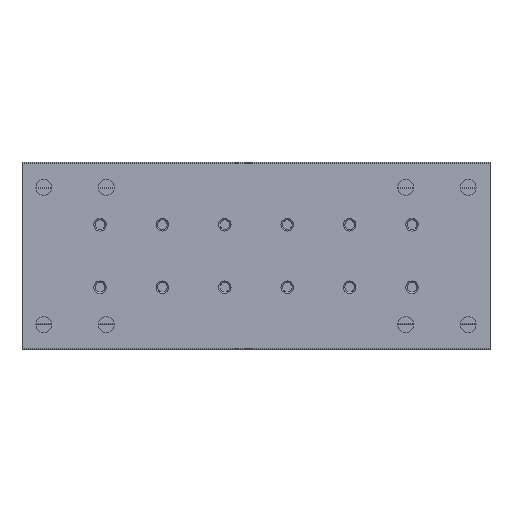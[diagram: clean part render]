
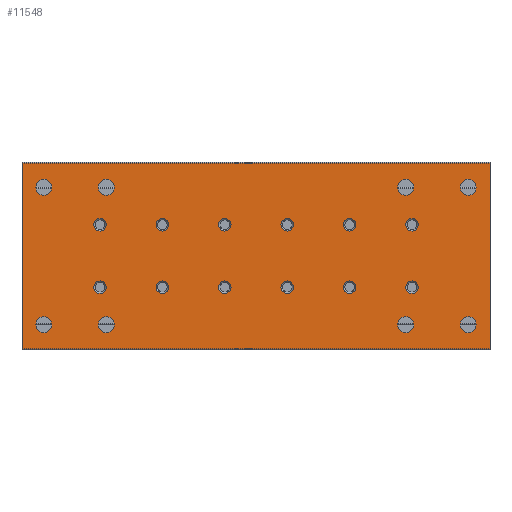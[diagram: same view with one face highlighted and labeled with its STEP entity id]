
A CAD part, front view. The second image highlights one B-rep face of the part: STEP entity #11548.
In plain terms, the highlighted planar face has unit normal (0, -1, 0).
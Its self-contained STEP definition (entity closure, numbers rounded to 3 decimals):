
#410=CIRCLE('',#12256,1.);
#411=CIRCLE('',#12257,1.);
#412=CIRCLE('',#12258,1.);
#413=CIRCLE('',#12259,1.);
#414=CIRCLE('',#12260,1.);
#415=CIRCLE('',#12261,1.);
#416=CIRCLE('',#12262,1.);
#417=CIRCLE('',#12263,1.);
#418=CIRCLE('',#12264,1.);
#419=CIRCLE('',#12265,1.);
#420=CIRCLE('',#12266,1.);
#421=CIRCLE('',#12267,1.);
#422=CIRCLE('',#12268,1.275);
#423=CIRCLE('',#12269,1.275);
#424=CIRCLE('',#12270,1.275);
#425=CIRCLE('',#12271,1.275);
#426=CIRCLE('',#12272,1.275);
#427=CIRCLE('',#12273,1.275);
#428=CIRCLE('',#12274,1.275);
#429=CIRCLE('',#12275,1.275);
#1206=ORIENTED_EDGE('',*,*,#4655,.F.);
#1207=ORIENTED_EDGE('',*,*,#4656,.F.);
#1208=ORIENTED_EDGE('',*,*,#4657,.F.);
#1209=ORIENTED_EDGE('',*,*,#4658,.F.);
#1210=ORIENTED_EDGE('',*,*,#4659,.F.);
#1211=ORIENTED_EDGE('',*,*,#4660,.F.);
#1212=ORIENTED_EDGE('',*,*,#4661,.F.);
#1213=ORIENTED_EDGE('',*,*,#4662,.F.);
#1214=ORIENTED_EDGE('',*,*,#4663,.F.);
#1215=ORIENTED_EDGE('',*,*,#4664,.F.);
#1216=ORIENTED_EDGE('',*,*,#4665,.F.);
#1217=ORIENTED_EDGE('',*,*,#4666,.F.);
#1218=ORIENTED_EDGE('',*,*,#4667,.F.);
#1219=ORIENTED_EDGE('',*,*,#4668,.F.);
#1220=ORIENTED_EDGE('',*,*,#4669,.F.);
#1221=ORIENTED_EDGE('',*,*,#4670,.F.);
#1222=ORIENTED_EDGE('',*,*,#4671,.T.);
#1223=ORIENTED_EDGE('',*,*,#4672,.F.);
#1224=ORIENTED_EDGE('',*,*,#4673,.F.);
#1225=ORIENTED_EDGE('',*,*,#4674,.F.);
#1226=ORIENTED_EDGE('',*,*,#4629,.T.);
#1227=ORIENTED_EDGE('',*,*,#4675,.F.);
#1228=ORIENTED_EDGE('',*,*,#4676,.F.);
#1229=ORIENTED_EDGE('',*,*,#4653,.T.);
#4629=EDGE_CURVE('',#6356,#6355,#7543,.T.);
#4653=EDGE_CURVE('',#6378,#6356,#7567,.T.);
#4655=EDGE_CURVE('',#6379,#6379,#410,.T.);
#4656=EDGE_CURVE('',#6380,#6380,#411,.T.);
#4657=EDGE_CURVE('',#6381,#6381,#412,.T.);
#4658=EDGE_CURVE('',#6382,#6382,#413,.T.);
#4659=EDGE_CURVE('',#6383,#6383,#414,.T.);
#4660=EDGE_CURVE('',#6384,#6384,#415,.T.);
#4661=EDGE_CURVE('',#6385,#6385,#416,.T.);
#4662=EDGE_CURVE('',#6386,#6386,#417,.T.);
#4663=EDGE_CURVE('',#6387,#6387,#418,.T.);
#4664=EDGE_CURVE('',#6388,#6388,#419,.T.);
#4665=EDGE_CURVE('',#6389,#6389,#420,.T.);
#4666=EDGE_CURVE('',#6390,#6390,#421,.T.);
#4667=EDGE_CURVE('',#6391,#6391,#422,.T.);
#4668=EDGE_CURVE('',#6392,#6392,#423,.T.);
#4669=EDGE_CURVE('',#6393,#6393,#424,.T.);
#4670=EDGE_CURVE('',#6394,#6394,#425,.T.);
#4671=EDGE_CURVE('',#6395,#6395,#426,.T.);
#4672=EDGE_CURVE('',#6396,#6396,#427,.T.);
#4673=EDGE_CURVE('',#6397,#6397,#428,.T.);
#4674=EDGE_CURVE('',#6398,#6398,#429,.T.);
#4675=EDGE_CURVE('',#6399,#6355,#7569,.T.);
#4676=EDGE_CURVE('',#6378,#6399,#7570,.T.);
#6355=VERTEX_POINT('',#17564);
#6356=VERTEX_POINT('',#17566);
#6378=VERTEX_POINT('',#17615);
#6379=VERTEX_POINT('',#17619);
#6380=VERTEX_POINT('',#17621);
#6381=VERTEX_POINT('',#17623);
#6382=VERTEX_POINT('',#17625);
#6383=VERTEX_POINT('',#17627);
#6384=VERTEX_POINT('',#17629);
#6385=VERTEX_POINT('',#17631);
#6386=VERTEX_POINT('',#17633);
#6387=VERTEX_POINT('',#17635);
#6388=VERTEX_POINT('',#17637);
#6389=VERTEX_POINT('',#17639);
#6390=VERTEX_POINT('',#17641);
#6391=VERTEX_POINT('',#17643);
#6392=VERTEX_POINT('',#17645);
#6393=VERTEX_POINT('',#17647);
#6394=VERTEX_POINT('',#17649);
#6395=VERTEX_POINT('',#17651);
#6396=VERTEX_POINT('',#17653);
#6397=VERTEX_POINT('',#17655);
#6398=VERTEX_POINT('',#17657);
#6399=VERTEX_POINT('',#17659);
#7543=LINE('',#17565,#8557);
#7567=LINE('',#17614,#8581);
#7569=LINE('',#17658,#8583);
#7570=LINE('',#17660,#8584);
#8557=VECTOR('',#13712,1000.);
#8581=VECTOR('',#13742,1000.);
#8583=VECTOR('',#13786,1000.);
#8584=VECTOR('',#13787,1000.);
#9527=EDGE_LOOP('',(#1206));
#9528=EDGE_LOOP('',(#1207));
#9529=EDGE_LOOP('',(#1208));
#9530=EDGE_LOOP('',(#1209));
#9531=EDGE_LOOP('',(#1210));
#9532=EDGE_LOOP('',(#1211));
#9533=EDGE_LOOP('',(#1212));
#9534=EDGE_LOOP('',(#1213));
#9535=EDGE_LOOP('',(#1214));
#9536=EDGE_LOOP('',(#1215));
#9537=EDGE_LOOP('',(#1216));
#9538=EDGE_LOOP('',(#1217));
#9539=EDGE_LOOP('',(#1218));
#9540=EDGE_LOOP('',(#1219));
#9541=EDGE_LOOP('',(#1220));
#9542=EDGE_LOOP('',(#1221));
#9543=EDGE_LOOP('',(#1222));
#9544=EDGE_LOOP('',(#1223));
#9545=EDGE_LOOP('',(#1224));
#9546=EDGE_LOOP('',(#1225));
#9547=EDGE_LOOP('',(#1226,#1227,#1228,#1229));
#10387=FACE_BOUND('',#9527,.T.);
#10388=FACE_BOUND('',#9528,.T.);
#10389=FACE_BOUND('',#9529,.T.);
#10390=FACE_BOUND('',#9530,.T.);
#10391=FACE_BOUND('',#9531,.T.);
#10392=FACE_BOUND('',#9532,.T.);
#10393=FACE_BOUND('',#9533,.T.);
#10394=FACE_BOUND('',#9534,.T.);
#10395=FACE_BOUND('',#9535,.T.);
#10396=FACE_BOUND('',#9536,.T.);
#10397=FACE_BOUND('',#9537,.T.);
#10398=FACE_BOUND('',#9538,.T.);
#10399=FACE_BOUND('',#9539,.T.);
#10400=FACE_BOUND('',#9540,.T.);
#10401=FACE_BOUND('',#9541,.T.);
#10402=FACE_BOUND('',#9542,.T.);
#10403=FACE_BOUND('',#9543,.T.);
#10404=FACE_BOUND('',#9544,.T.);
#10405=FACE_BOUND('',#9545,.T.);
#10406=FACE_BOUND('',#9546,.T.);
#10407=FACE_BOUND('',#9547,.T.);
#11247=PLANE('',#12255);
#11548=ADVANCED_FACE('',(#10387,#10388,#10389,#10390,#10391,#10392,#10393,
#10394,#10395,#10396,#10397,#10398,#10399,#10400,#10401,#10402,#10403,#10404,
#10405,#10406,#10407),#11247,.F.);
#12255=AXIS2_PLACEMENT_3D('',#17617,#13744,#13745);
#12256=AXIS2_PLACEMENT_3D('',#17618,#13746,#13747);
#12257=AXIS2_PLACEMENT_3D('',#17620,#13748,#13749);
#12258=AXIS2_PLACEMENT_3D('',#17622,#13750,#13751);
#12259=AXIS2_PLACEMENT_3D('',#17624,#13752,#13753);
#12260=AXIS2_PLACEMENT_3D('',#17626,#13754,#13755);
#12261=AXIS2_PLACEMENT_3D('',#17628,#13756,#13757);
#12262=AXIS2_PLACEMENT_3D('',#17630,#13758,#13759);
#12263=AXIS2_PLACEMENT_3D('',#17632,#13760,#13761);
#12264=AXIS2_PLACEMENT_3D('',#17634,#13762,#13763);
#12265=AXIS2_PLACEMENT_3D('',#17636,#13764,#13765);
#12266=AXIS2_PLACEMENT_3D('',#17638,#13766,#13767);
#12267=AXIS2_PLACEMENT_3D('',#17640,#13768,#13769);
#12268=AXIS2_PLACEMENT_3D('',#17642,#13770,#13771);
#12269=AXIS2_PLACEMENT_3D('',#17644,#13772,#13773);
#12270=AXIS2_PLACEMENT_3D('',#17646,#13774,#13775);
#12271=AXIS2_PLACEMENT_3D('',#17648,#13776,#13777);
#12272=AXIS2_PLACEMENT_3D('',#17650,#13778,#13779);
#12273=AXIS2_PLACEMENT_3D('',#17652,#13780,#13781);
#12274=AXIS2_PLACEMENT_3D('',#17654,#13782,#13783);
#12275=AXIS2_PLACEMENT_3D('',#17656,#13784,#13785);
#13712=DIRECTION('',(0.,0.,-1.));
#13742=DIRECTION('',(-1.,0.,0.));
#13744=DIRECTION('',(0.,1.,0.));
#13745=DIRECTION('',(0.,0.,1.));
#13746=DIRECTION('',(0.,-1.,0.));
#13747=DIRECTION('',(0.,0.,-1.));
#13748=DIRECTION('',(0.,-1.,0.));
#13749=DIRECTION('',(0.,0.,-1.));
#13750=DIRECTION('',(0.,-1.,0.));
#13751=DIRECTION('',(0.,0.,-1.));
#13752=DIRECTION('',(0.,-1.,0.));
#13753=DIRECTION('',(0.,0.,-1.));
#13754=DIRECTION('',(0.,-1.,0.));
#13755=DIRECTION('',(0.,0.,-1.));
#13756=DIRECTION('',(0.,-1.,0.));
#13757=DIRECTION('',(0.,0.,-1.));
#13758=DIRECTION('',(0.,-1.,0.));
#13759=DIRECTION('',(0.,0.,-1.));
#13760=DIRECTION('',(0.,-1.,0.));
#13761=DIRECTION('',(0.,0.,-1.));
#13762=DIRECTION('',(0.,-1.,0.));
#13763=DIRECTION('',(0.,0.,-1.));
#13764=DIRECTION('',(0.,-1.,0.));
#13765=DIRECTION('',(0.,0.,-1.));
#13766=DIRECTION('',(0.,-1.,0.));
#13767=DIRECTION('',(0.,0.,-1.));
#13768=DIRECTION('',(0.,-1.,0.));
#13769=DIRECTION('',(0.,0.,-1.));
#13770=DIRECTION('',(0.,-1.,0.));
#13771=DIRECTION('',(0.,0.,-1.));
#13772=DIRECTION('',(0.,-1.,0.));
#13773=DIRECTION('',(0.,0.,-1.));
#13774=DIRECTION('',(0.,-1.,0.));
#13775=DIRECTION('',(0.,0.,-1.));
#13776=DIRECTION('',(0.,-1.,0.));
#13777=DIRECTION('',(0.,0.,-1.));
#13778=DIRECTION('',(0.,1.,0.));
#13779=DIRECTION('',(0.,0.,1.));
#13780=DIRECTION('',(0.,-1.,0.));
#13781=DIRECTION('',(0.,0.,-1.));
#13782=DIRECTION('',(0.,-1.,0.));
#13783=DIRECTION('',(0.,0.,-1.));
#13784=DIRECTION('',(0.,-1.,0.));
#13785=DIRECTION('',(0.,0.,-1.));
#13786=DIRECTION('',(-1.,0.,0.));
#13787=DIRECTION('',(0.,0.,-1.));
#17564=CARTESIAN_POINT('',(0.,0.,-14.85));
#17565=CARTESIAN_POINT('',(0.,0.,14.85));
#17566=CARTESIAN_POINT('',(0.,0.,14.85));
#17614=CARTESIAN_POINT('',(75.,0.,14.85));
#17615=CARTESIAN_POINT('',(75.,0.,14.85));
#17617=CARTESIAN_POINT('',(75.,0.,14.85));
#17618=CARTESIAN_POINT('',(62.5,0.,-5.));
#17619=CARTESIAN_POINT('',(62.5,0.,-6.));
#17620=CARTESIAN_POINT('',(62.5,0.,5.));
#17621=CARTESIAN_POINT('',(62.5,0.,4.));
#17622=CARTESIAN_POINT('',(12.5,0.,-5.));
#17623=CARTESIAN_POINT('',(12.5,0.,-6.));
#17624=CARTESIAN_POINT('',(12.5,0.,5.));
#17625=CARTESIAN_POINT('',(12.5,0.,4.));
#17626=CARTESIAN_POINT('',(22.5,0.,-5.));
#17627=CARTESIAN_POINT('',(22.5,0.,-6.));
#17628=CARTESIAN_POINT('',(22.5,0.,5.));
#17629=CARTESIAN_POINT('',(22.5,0.,4.));
#17630=CARTESIAN_POINT('',(52.5,0.,-5.));
#17631=CARTESIAN_POINT('',(52.5,0.,-6.));
#17632=CARTESIAN_POINT('',(52.5,0.,5.));
#17633=CARTESIAN_POINT('',(52.5,0.,4.));
#17634=CARTESIAN_POINT('',(42.5,0.,-5.));
#17635=CARTESIAN_POINT('',(42.5,0.,-6.));
#17636=CARTESIAN_POINT('',(42.5,0.,5.));
#17637=CARTESIAN_POINT('',(42.5,0.,4.));
#17638=CARTESIAN_POINT('',(32.5,0.,-5.));
#17639=CARTESIAN_POINT('',(32.5,0.,-6.));
#17640=CARTESIAN_POINT('',(32.5,0.,5.));
#17641=CARTESIAN_POINT('',(32.5,0.,4.));
#17642=CARTESIAN_POINT('',(61.5,0.,11.));
#17643=CARTESIAN_POINT('',(61.5,0.,9.725));
#17644=CARTESIAN_POINT('',(61.5,0.,-11.));
#17645=CARTESIAN_POINT('',(61.5,0.,-12.275));
#17646=CARTESIAN_POINT('',(13.5,0.,11.));
#17647=CARTESIAN_POINT('',(13.5,0.,9.725));
#17648=CARTESIAN_POINT('',(13.5,0.,-11.));
#17649=CARTESIAN_POINT('',(13.5,0.,-12.275));
#17650=CARTESIAN_POINT('',(71.5,0.,11.));
#17651=CARTESIAN_POINT('',(71.5,0.,12.275));
#17652=CARTESIAN_POINT('',(71.5,0.,-11.));
#17653=CARTESIAN_POINT('',(71.5,0.,-12.275));
#17654=CARTESIAN_POINT('',(3.5,0.,-11.));
#17655=CARTESIAN_POINT('',(3.5,0.,-12.275));
#17656=CARTESIAN_POINT('',(3.5,0.,11.));
#17657=CARTESIAN_POINT('',(3.5,0.,9.725));
#17658=CARTESIAN_POINT('',(75.,0.,-14.85));
#17659=CARTESIAN_POINT('',(75.,0.,-14.85));
#17660=CARTESIAN_POINT('',(75.,0.,14.85));
